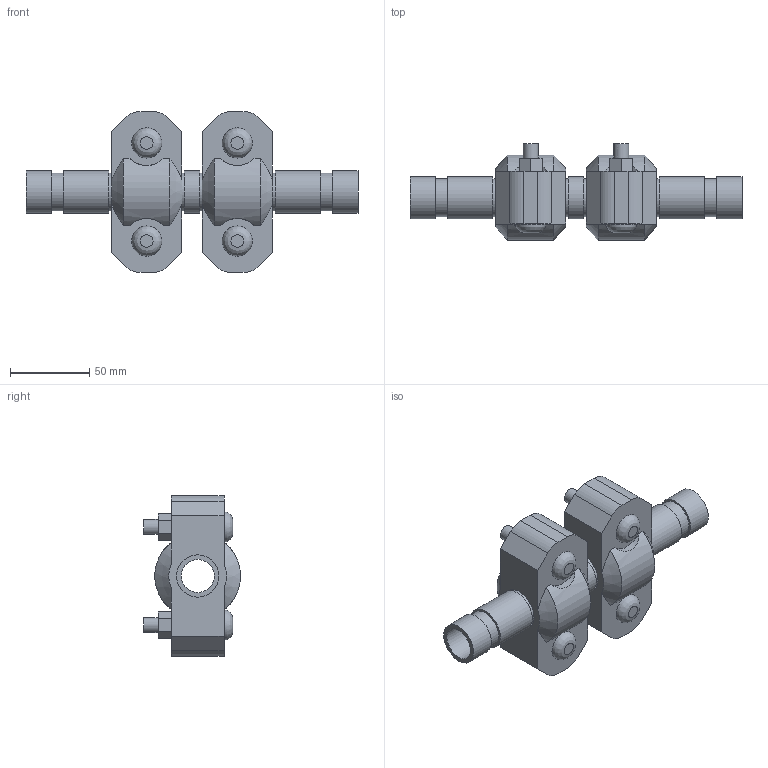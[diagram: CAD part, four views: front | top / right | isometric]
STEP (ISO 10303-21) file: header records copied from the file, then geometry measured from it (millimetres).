
FILE_DESCRIPTION(/* description */ ('VIC EXPANSION JOINT 2 COUPLINGS COMPRESSED STYLE 155 (OGS)','CAx-IF Rec.Pracs.---Representation and Presentation of Product Manufacturing Information (PMI)---4.0---2014-10-13'),/* implementation_level */ '2;1');
FILE_NAME(/* name */ 'C:\Users\kkamble\AppData\Roaming\Autodesk\ApplicationPlugins\Victaulic.Temp\A11\Victaulic_IPS_Expansion Joint_Compressed_2 Couplings_Style 155 (OGS)_0.75 (20).stp',/* time_stamp */ '2021-06-27T00:22:55+02:00',/* author */ ('kkamble'),/* organization */ ('Victaulic'),/* preprocessor_version */ 'ST-DEVELOPER v17.2',/* originating_system */ 'Autodesk Inventor 2019',/* authorisation */ '');
FILE_SCHEMA (('AP242_MANAGED_MODEL_BASED_3D_ENGINEERING_MIM_LF { 1 0 10303 442 1 1 4 }'));
Length unit declared in the file: inch
Products named in the file (4): 155-0.75; Nipple-0.75; Nipple-0.75_1; 077-0.75
Assembly tree (5 placements, depth 2):
  155-0.75
    Nipple-0.75  x2
    Nipple-0.75_1
    077-0.75  x2
Bounding box: 209.55 x 61.1 x 101.6 mm (x, y, z)
Volume: 321239.1 mm3; surface area: 87816 mm2
Topology: 5 solids, 9 shells, 150 faces, 368 edges, 260 vertices
Faces by surface type: plane 86, cylinder 52, cone 8, bspline 4
Full cylindrical faces by diameter (mm): 9.525 x8, 11.43 x4, 20.93 x3, 23.825 x6, 26.67 x11
Entity records: 2859 total; most frequent: CARTESIAN_POINT 567, DIRECTION 455, ORIENTED_EDGE 398, EDGE_CURVE 199, AXIS2_PLACEMENT_3D 180, VERTEX_POINT 142, EDGE_LOOP 105, LINE 95
